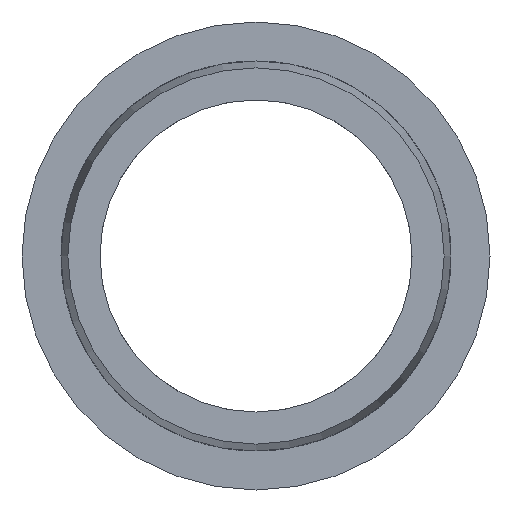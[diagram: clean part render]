
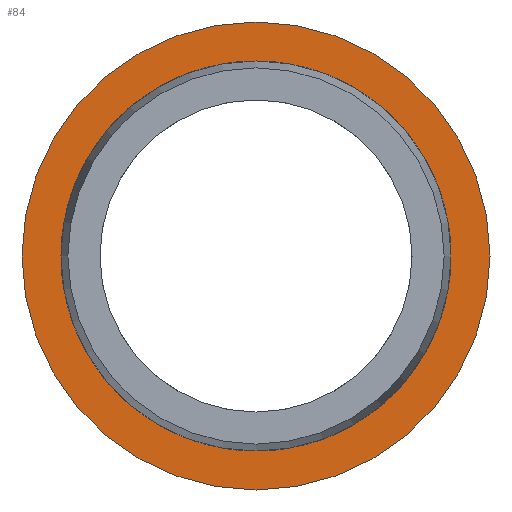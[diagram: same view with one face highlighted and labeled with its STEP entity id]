
A CAD part, front view. The second image highlights one B-rep face of the part: STEP entity #84.
In plain terms, the highlighted planar face has unit normal (0, -1, 0).
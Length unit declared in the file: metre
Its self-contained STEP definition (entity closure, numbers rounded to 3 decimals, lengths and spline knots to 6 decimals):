
#84 = ADVANCED_FACE( '', ( #252, #253 ), #254, .F. );
#252 = FACE_BOUND( '', #516, .T. );
#253 = FACE_OUTER_BOUND( '', #517, .T. );
#254 = PLANE( '', #518 );
#516 = EDGE_LOOP( '', ( #794 ) );
#517 = EDGE_LOOP( '', ( #795 ) );
#518 = AXIS2_PLACEMENT_3D( '', #796, #797, #798 );
#794 = ORIENTED_EDGE( '', *, *, #1140, .F. );
#795 = ORIENTED_EDGE( '', *, *, #1142, .T. );
#796 = CARTESIAN_POINT( '', ( -0.03, 0.062, 0. ) );
#797 = DIRECTION( '', ( 0., 1., 0. ) );
#798 = DIRECTION( '', ( 0., 0., 1. ) );
#1140 = EDGE_CURVE( '', #1345, #1345, #1346, .T. );
#1142 = EDGE_CURVE( '', #1349, #1349, #1350, .T. );
#1345 = VERTEX_POINT( '', #7361 );
#1346 = CIRCLE( '', #7362, 0.025 );
#1349 = VERTEX_POINT( '', #7365 );
#1350 = CIRCLE( '', #7366, 0.03 );
#7361 = CARTESIAN_POINT( '', ( 0., 0.062, -0.025 ) );
#7362 = AXIS2_PLACEMENT_3D( '', #7382, #7383, #7384 );
#7365 = CARTESIAN_POINT( '', ( 0., 0.062, -0.03 ) );
#7366 = AXIS2_PLACEMENT_3D( '', #7388, #7389, #7390 );
#7382 = CARTESIAN_POINT( '', ( 0., 0.062, 0. ) );
#7383 = DIRECTION( '', ( 0., -1., 0. ) );
#7384 = DIRECTION( '', ( 0., 0., -1. ) );
#7388 = CARTESIAN_POINT( '', ( 0., 0.062, 0. ) );
#7389 = DIRECTION( '', ( 0., -1., 0. ) );
#7390 = DIRECTION( '', ( 0., 0., -1. ) );
